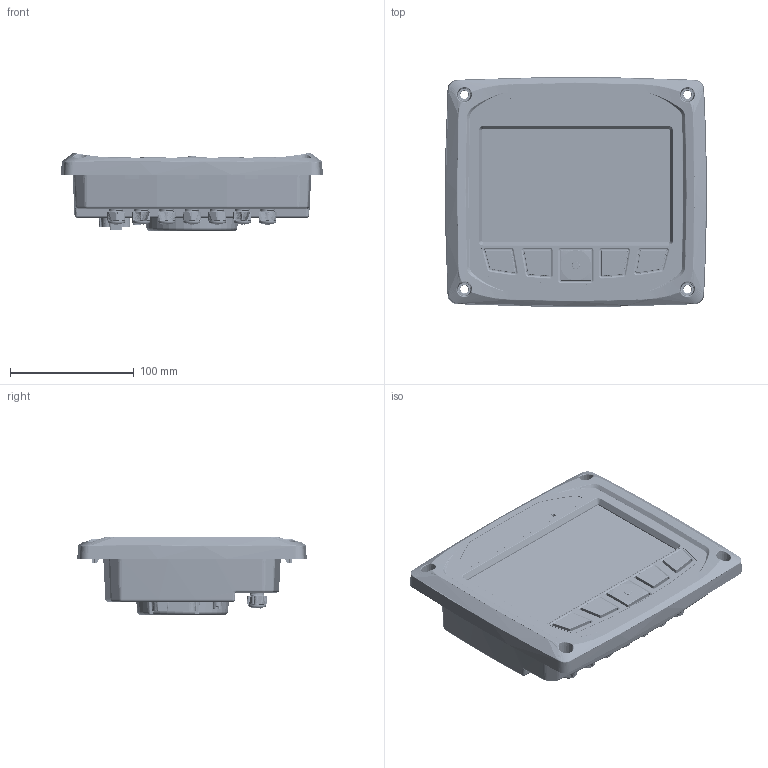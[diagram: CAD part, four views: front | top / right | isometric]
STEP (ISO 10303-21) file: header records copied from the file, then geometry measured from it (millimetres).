
FILE_DESCRIPTION (( 'STEP AP203' ), '1' );
FILE_NAME ('CL711 Standard Configuration - Front Mount.STEP', '2018-02-13T21:08:46', ( '' ), ( '' ), 'SwSTEP 2.0', 'SolidWorks 2018', '' );
FILE_SCHEMA (( 'CONFIG_CONTROL_DESIGN' ));
Products named in the file (1): CL711 Standard Configuration - Front Mount
Bounding box: 211.53 x 185.38 x 63.37 mm (x, y, z)
Volume: 513141.9 mm3; surface area: 601268.4 mm2
Topology: 67 solids, 67 shells, 10705 faces, 29069 edges, 18810 vertices
Faces by surface type: bspline 3741, cylinder 2901, plane 2363, cone 743, torus 659, sphere 298
Entity records: 500899 total; most frequent: CARTESIAN_POINT 265269, ORIENTED_EDGE 57890, DIRECTION 37073, EDGE_CURVE 28945, VERTEX_POINT 18806, AXIS2_PLACEMENT_3D 14803, B_SPLINE_CURVE_WITH_KNOTS 11903, EDGE_LOOP 11323
